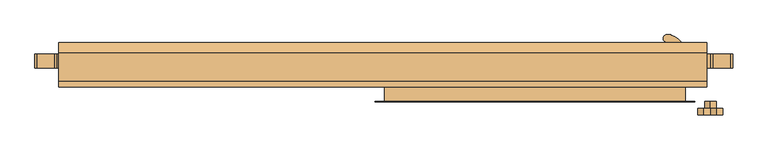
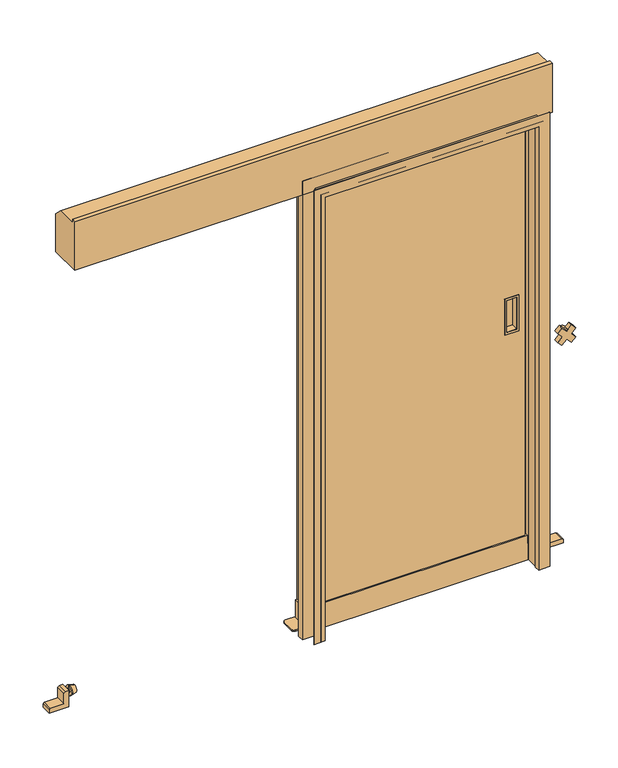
"""IFC4 building model written with IfcOpenShell, lengths in millimetres: door geometry, 冷蔵_片引きスライドドア3方_手動 : W870xH1905xt55."""

import ifcopenshell
import ifcopenshell.guid

model = None  # the IFC model being written
_history = None  # IfcOwnerHistory: only IFC2X3 demands one
_inside = {}  # id of a spatial element -> (the spatial element, [elements in it])
_under = {}  # id of a project, library or spatial element -> (it, [spatial elements below it])
_declared = {}  # id of a project -> (the project, [libraries it declares])
_typed = {}  # id of a type object -> (the type object, [elements of that type])
_made_of = {}  # id of a material, layer set ... -> (it, [elements and type objects made of it])


def new_model(schema):
    """Start an empty IFC model of exactly this schema.

    Asked for "IFC4X3", IfcOpenShell would pick the latest addendum, in which some entities
    have other attributes; the version numbers below select the first issue.
    IFC2X3 requires an IfcOwnerHistory on every rooted entity: one is made here for all.
    """
    global model, _history
    if schema == "IFC4X3":
        model = ifcopenshell.file(schema_version=(4, 3, 0, 0))
    else:
        model = ifcopenshell.file(schema=schema)
    _inside.clear()
    _under.clear()
    _declared.clear()
    _typed.clear()
    _made_of.clear()
    _history = None
    if model.schema == "IFC2X3":
        org = make("IfcOrganization", Name="unknown")
        user = make(
            "IfcPersonAndOrganization",
            ThePerson=make("IfcPerson", FamilyName="unknown"),
            TheOrganization=org,
        )
        app = make(
            "IfcApplication",
            ApplicationDeveloper=org,
            Version="unknown",
            ApplicationFullName="unknown",
            ApplicationIdentifier="unknown",
        )
        _history = make(
            "IfcOwnerHistory",
            OwningUser=user,
            OwningApplication=app,
            ChangeAction="ADDED",
            CreationDate=0,
        )
    return model


def make(cls, **values):
    """One entity of the class cls with the attributes given. An attribute that is None is left unset."""
    return model.create_entity(
        cls, **{name: value for name, value in values.items() if value is not None}
    )


def rooted(cls, **values):
    """An entity with a GlobalId (a new one), such as an element, a storey or a relation."""
    return make(cls, GlobalId=ifcopenshell.guid.new(), OwnerHistory=_history, **values)


def si_unit(unit_type, name, prefix=None):
    """IfcSIUnit, for example si_unit("LENGTHUNIT", "METRE", prefix="MILLI")."""
    return make("IfcSIUnit", UnitType=unit_type, Prefix=prefix, Name=name)


def assignment(units):
    """IfcUnitAssignment: the units of a project."""
    return None if units is None else make("IfcUnitAssignment", Units=units)


def point(xyz):
    """IfcCartesianPoint."""
    return None if xyz is None else make("IfcCartesianPoint", Coordinates=xyz)


def direction(xyz):
    """IfcDirection."""
    return None if xyz is None else make("IfcDirection", DirectionRatios=xyz)


def frame(location, z_axis=None, x_axis=None):
    """IfcAxis2Placement3D, a coordinate frame: its origin and axes. An axis left out is left unset."""
    return make(
        "IfcAxis2Placement3D",
        Location=point(location),
        Axis=direction(z_axis),
        RefDirection=direction(x_axis),
    )


def frame_2d(location, x_axis=None):
    """IfcAxis2Placement2D, a coordinate frame in the plane: its origin and x axis."""
    return make(
        "IfcAxis2Placement2D", Location=point(location), RefDirection=direction(x_axis)
    )


def origin():
    """The frame at (0, 0, 0) with its axes left unset."""
    return frame((0.0, 0.0, 0.0))


def origin_with_axes():
    """The frame at (0, 0, 0) with the z axis (0, 0, 1) and the x axis (1, 0, 0) written out."""
    return frame((0.0, 0.0, 0.0), z_axis=(0.0, 0.0, 1.0), x_axis=(1.0, 0.0, 0.0))


def place(relative_to, where):
    """IfcLocalPlacement: puts the frame where relative to a parent placement (None: the world)."""
    return make(
        "IfcLocalPlacement", PlacementRelTo=relative_to, RelativePlacement=where
    )


def context(
    kind, dimensions, precision=None, world=None, true_north=None, identifier=None
):
    """IfcGeometricRepresentationContext, for example the 3D "Model" context."""
    return make(
        "IfcGeometricRepresentationContext",
        ContextIdentifier=identifier,
        ContextType=kind,
        CoordinateSpaceDimension=dimensions,
        Precision=precision,
        WorldCoordinateSystem=world,
        TrueNorth=true_north,
    )


def project(units=None, contexts=None):
    """IfcProject with its units and contexts."""
    return rooted(
        "IfcProject",
        Name="project",
        RepresentationContexts=contexts,
        UnitsInContext=assignment(units),
    )


def spatial(cls, under=None, at=None, **own):
    """A site, building, storey or space (cls), placed at a placement, below another one or the project."""
    s = rooted(cls, ObjectPlacement=at, **own)
    if under is not None:
        _under.setdefault(under.id(), (under, []))[1].append(s)
    return s


def polyline(points):
    """IfcPolyline through the points."""
    return make("IfcPolyline", Points=[point(p) for p in points])


def circle_curve(where, radius):
    """IfcCircle in the frame where."""
    return make("IfcCircle", Position=where, Radius=radius)


def trimmed(basis, trim1, trim2, sense, master):
    """IfcTrimmedCurve: the piece of a basis curve between two trims."""
    return make(
        "IfcTrimmedCurve",
        BasisCurve=basis,
        Trim1=trim1,
        Trim2=trim2,
        SenseAgreement=sense,
        MasterRepresentation=master,
    )


def segment(curve, same_sense, transition):
    """IfcCompositeCurveSegment."""
    return make(
        "IfcCompositeCurveSegment",
        Transition=transition,
        SameSense=same_sense,
        ParentCurve=curve,
    )


def composite_curve(segments, self_intersect=None):
    """IfcCompositeCurve: segments joined end to end."""
    return make("IfcCompositeCurve", Segments=segments, SelfIntersect=self_intersect)


def outline(outer, holes=None, kind="AREA"):
    """IfcArbitraryClosedProfileDef: a profile drawn as a closed curve; with holes, ...WithVoids."""
    if holes is None:
        return make("IfcArbitraryClosedProfileDef", ProfileType=kind, OuterCurve=outer)
    return make(
        "IfcArbitraryProfileDefWithVoids",
        ProfileType=kind,
        OuterCurve=outer,
        InnerCurves=holes,
    )


def extrude(swept, where, along, depth):
    """IfcExtrudedAreaSolid: the profile swept, set in the frame where, extruded along a direction by depth."""
    return make(
        "IfcExtrudedAreaSolid",
        SweptArea=swept,
        Position=where,
        ExtrudedDirection=direction(along),
        Depth=depth,
    )


def faces_of(points, faces, orient=None, outer=None):
    """IfcFace entities. A face is a list of loops; a loop is a list of indices into points, from 0.

    orient and outer hold one flag for each loop. By default every Orientation is true, the
    first loop of a face is its IfcFaceOuterBound and the others are IfcFaceBound.
    """
    made = []
    for i, loops in enumerate(faces):
        bounds = []
        for j, loop in enumerate(loops):
            is_outer = j == 0 if outer is None else outer[i][j]
            bounds.append(
                make(
                    "IfcFaceOuterBound" if is_outer else "IfcFaceBound",
                    Bound=make("IfcPolyLoop", Polygon=[points[k] for k in loop]),
                    Orientation=True if orient is None else orient[i][j],
                )
            )
        made.append(make("IfcFace", Bounds=bounds))
    return made


def faceted_brep(points, faces, orient=None, outer=None, voids=None):
    """IfcFacetedBrep: a solid bounded by flat faces; with voids (closed shells), ...WithVoids."""
    shared = [point(p) for p in points]
    hull = make("IfcClosedShell", CfsFaces=faces_of(shared, faces, orient, outer))
    if voids is None:
        return make("IfcFacetedBrep", Outer=hull)
    return make(
        "IfcFacetedBrepWithVoids",
        Outer=hull,
        Voids=[
            make(cls, CfsFaces=faces_of(shared, fs, o, b)) for cls, fs, o, b in voids
        ],
    )


def shape(context_of_items, identifier, shape_type, items):
    """IfcShapeRepresentation: the items that make up one representation, for example the "Body"."""
    return make(
        "IfcShapeRepresentation",
        ContextOfItems=context_of_items,
        RepresentationIdentifier=identifier,
        RepresentationType=shape_type,
        Items=items,
    )


def source(mapping_origin, context_of_items, identifier, shape_type, items):
    """IfcRepresentationMap: a shape defined once, which mapped items show again and again."""
    return make(
        "IfcRepresentationMap",
        MappingOrigin=mapping_origin,
        MappedRepresentation=shape(context_of_items, identifier, shape_type, items),
    )


def transform(
    local_origin,
    x_axis=None,
    y_axis=None,
    z_axis=None,
    scale=None,
    scale2=None,
    scale3=None,
    uniform=True,
):
    """IfcCartesianTransformationOperator3D, or its non-uniform kind. x_axis, y_axis, z_axis: its Axis1, 2, 3."""
    if uniform:
        return make(
            "IfcCartesianTransformationOperator3D",
            Axis1=direction(x_axis),
            Axis2=direction(y_axis),
            LocalOrigin=point(local_origin),
            Scale=scale,
            Axis3=direction(z_axis),
        )
    return make(
        "IfcCartesianTransformationOperator3DnonUniform",
        Axis1=direction(x_axis),
        Axis2=direction(y_axis),
        LocalOrigin=point(local_origin),
        Scale=scale,
        Axis3=direction(z_axis),
        Scale2=scale2,
        Scale3=scale3,
    )


def mapped(mapping_source, mapping_target):
    """IfcMappedItem: shows the shape of a source again, moved by a transform."""
    return make(
        "IfcMappedItem", MappingSource=mapping_source, MappingTarget=mapping_target
    )


def made_of(thing, what):
    """Note that an element or type object is made of a material, layer set ...; save() writes the relation."""
    if what is not None:
        _made_of.setdefault(what.id(), (what, []))[1].append(thing)
    return thing


def element(
    cls,
    number,
    at=None,
    inside=None,
    cuts=None,
    type_object=None,
    material=None,
    context=None,
    identifier="Body",
    shape_type=None,
    held_by="IfcProductDefinitionShape",
    body=None,
    shapes=None,
    **own,
):
    """One element of the class cls, such as IfcWall. Its Tag is "e" and its number.

    at: its placement. inside: the storey or other place that contains it. cuts: it is an
    opening in that element (IfcRelVoidsElement). A single representation is given by context,
    identifier, shape_type and body (its items); several are given by shapes. held_by: the class
    of the entity that holds the representations. save() writes the other relations.
    """
    e = rooted(cls, Tag="e%d" % number, ObjectPlacement=at, **own)
    if body is not None:
        shapes = [shape(context, identifier, shape_type, body)]
    if shapes is not None:
        e.Representation = make(held_by, Representations=shapes)
    if inside is not None:
        _inside.setdefault(inside.id(), (inside, []))[1].append(e)
    if cuts is not None:
        rooted(
            "IfcRelVoidsElement", RelatingBuildingElement=cuts, RelatedOpeningElement=e
        )
    if type_object is not None:
        _typed.setdefault(type_object.id(), (type_object, []))[1].append(e)
    return made_of(e, material)


def aggregate(whole, parts):
    """IfcRelAggregates: a whole, such as a stair, and the parts it consists of."""
    return rooted("IfcRelAggregates", RelatingObject=whole, RelatedObjects=parts)


def save(model, path):
    """Write the relations noted so far, then the file.

    IfcRelAggregates (storeys below a building ...), IfcRelContainedInSpatialStructure (elements
    in a storey), IfcRelDefinesByType, IfcRelAssociatesMaterial and IfcRelDeclares: one each for
    every whole, place, type object, material and project.
    """
    for whole, parts in _under.values():
        aggregate(whole, parts)
    for where, things in _inside.values():
        rooted(
            "IfcRelContainedInSpatialStructure",
            RelatedElements=things,
            RelatingStructure=where,
        )
    for kind, things in _typed.values():
        rooted("IfcRelDefinesByType", RelatedObjects=things, RelatingType=kind)
    for what, things in _made_of.values():
        rooted("IfcRelAssociatesMaterial", RelatedObjects=things, RelatingMaterial=what)
    for by, libraries in _declared.values():
        rooted("IfcRelDeclares", RelatingContext=by, RelatedDefinitions=libraries)
    model.write(path)


def plane_surface(at):
    """IfcPlane: the flat surface through the origin of the frame at, square to its z axis."""
    return make("IfcPlane", Position=at)


def cylinder_surface(at, radius):
    """IfcCylindricalSurface: all points at the distance radius from the z axis of the frame at."""
    return make("IfcCylindricalSurface", Position=at, Radius=radius)


def revolved_surface(curve, axis_point, axis_direction):
    """IfcSurfaceOfRevolution: the curve turned about the line through axis_point along axis_direction."""
    return make(
        "IfcSurfaceOfRevolution",
        SweptCurve=make("IfcArbitraryOpenProfileDef", ProfileType="CURVE", Curve=curve),
        AxisPosition=make("IfcAxis1Placement", Location=point(axis_point), Axis=direction(axis_direction)),
    )


def advanced_brep(points, edges, surfaces, faces):
    """IfcAdvancedBrep: a solid bounded by faces that lie on surfaces and meet in shared edges.

    An edge is (start, end): straight between two places in points (the first is 0);
    or (start, end, curve); or (start, end, curve, False) where it runs against its curve.
    A face is (place in surfaces, loops), or (place, loops, False) where it looks against
    its surface's normal. A loop lists edges by number (the first is 1), with a minus sign
    where the edge is run from its end to its start. The first loop is the outer one.
    """
    corners = [point(p) for p in points]
    vertices = [make("IfcVertexPoint", VertexGeometry=c) for c in corners]
    made = []
    for start, end, *more in edges:
        made.append(
            make(
                "IfcEdgeCurve",
                EdgeStart=vertices[start],
                EdgeEnd=vertices[end],
                EdgeGeometry=more[0] if more else make("IfcPolyline", Points=[corners[start], corners[end]]),
                SameSense=more[1] if len(more) > 1 else True,
            )
        )
    hull = []
    for where, loops, *sense in faces:
        bounds = []
        for j, loop in enumerate(loops):
            ring = [make("IfcOrientedEdge", EdgeElement=made[abs(k) - 1], Orientation=k > 0) for k in loop]
            bounds.append(
                make(
                    "IfcFaceOuterBound" if j == 0 else "IfcFaceBound",
                    Bound=make("IfcEdgeLoop", EdgeList=ring),
                    Orientation=True,
                )
            )
        hull.append(make("IfcAdvancedFace", Bounds=bounds, FaceSurface=surfaces[where], SameSense=sense[0] if sense else True))
    return make("IfcAdvancedBrep", Outer=make("IfcClosedShell", CfsFaces=hull))


def door_3a216a61(model_context):
    return source(origin(), model_context, "Body", "SolidModel", [
        faceted_brep([(470.0, 112.5, 1940.0), (-470.0, 112.5, 1940.0), (-470.0, 68.5, 1940.0), (470.0, 68.5, 1940.0), (470.0, 112.5, 70.0), (470.0, 68.5, 70.0), (425.0, 68.5, 70.0), (425.0, 57.5, 70.0), (-425.0, 57.5, 70.0), (-425.0, 68.5, 70.0), (-470.0, 68.5, 70.0), (-470.0, 112.5, 70.0), (-425.0, 68.5, 1895.0), (425.0, 68.5, 1895.0), (-425.0, 57.5, 1895.0), (425.0, 57.5, 1895.0), (350.500035, 57.5, 1138.0), (390.500035, 57.5, 1138.0), (390.500035, 57.5, 1002.0), (350.500035, 57.5, 1002.0), (350.500035, 85.5, 1138.0), (390.500035, 85.5, 1138.0), (350.500035, 85.5, 1002.0), (390.500035, 85.5, 1002.0)], [[[0, 1, 2, 3]], [[4, 5, 6, 7, 8, 9, 10, 11]], [[1, 0, 4, 11]], [[2, 1, 11, 10]], [[3, 2, 10, 9, 12, 13, 6, 5]], [[0, 3, 5, 4]], [[12, 14, 15, 13]], [[14, 12, 9, 8]], [[15, 14, 8, 7], [16, 17, 18, 19]], [[13, 15, 7, 6]], [[20, 21, 17, 16]], [[20, 16, 19, 22]], [[22, 19, 18, 23]], [[17, 21, 23, 18]], [[21, 20, 22, 23]]]),
        extrude(outline(polyline([(1147.0, 399.500035), (1147.0, 341.500035), (993.0, 341.500035), (993.0, 399.500035), (1147.0, 399.500035)]), holes=[polyline([(1002.0, 390.500035), (1002.0, 350.500035), (1138.0, 350.500035), (1138.0, 390.500035), (1002.0, 390.500035)])]), frame((0.0, 55.499995, 0.0), z_axis=(0.0, 1.0, 0.0), x_axis=(0.0, 0.0, 1.0)), (0.0, 0.0, 1.0), 2.000005),
        extrude(outline(polyline([(73.49997, 35.00001), (61.49997, 47.00001), (61.49997, 110.00001), (111.49997, 110.00001), (111.49997, 35.00001), (73.49997, 35.00001)])), frame((-476.0, 0.0, 0.0), z_axis=(1.0, 0.0, 0.0), x_axis=(0.0, 1.0, 0.0)), (0.0, 0.0, 1.0), 6.0),
        extrude(outline(polyline([(73.49997, 35.00001), (61.49997, 47.00001), (61.49997, 110.00001), (111.49997, 110.00001), (111.49997, 35.00001), (73.49997, 35.00001)])), frame((470.0, 0.0, 0.0), z_axis=(1.0, 0.0, 0.0), x_axis=(0.0, 1.0, 0.0)), (0.0, 0.0, 1.0), 6.0),
        extrude(outline(polyline([(470.0, 112.5), (470.0, 77.49997), (-470.0, 77.49997), (-470.0, 112.5), (470.0, 112.5)])), frame((0.0, 0.0, 35.00001), z_axis=(0.0, 0.0, 1.0), x_axis=(1.0, 0.0, 0.0)), (0.0, 0.0, 1.0), 34.99999),
        extrude(outline(polyline([(-432.0, 68.5), (432.0, 68.5), (432.0, 51.499345), (-432.0, 51.499345), (-432.0, 68.5)])), frame((0.0, 0.0, -0.004205), z_axis=(0.0, 0.0, 1.0), x_axis=(1.0, 0.0, 0.0)), (0.0, 0.0, 1.0), 105.0),
        extrude(outline(polyline([(460.4985861, 48.9116213), (432.5014439, 48.9116213), (432.5014439, 68.5), (460.4985861, 68.5), (460.4985861, 48.9116213)])), frame((0.0, 0.0, 70.0), z_axis=(0.0, 0.0, 1.0), x_axis=(1.0, 0.0, 0.0)), (0.0, 0.0, 1.0), 1825.0),
        extrude(outline(polyline([(-460.4985861, 48.9116213), (-460.4985861, 68.5), (-432.5014439, 68.5), (-432.5014439, 48.9116213), (-460.4985861, 48.9116213)])), frame((0.0, 0.0, 70.0), z_axis=(0.0, 0.0, 1.0), x_axis=(1.0, 0.0, 0.0)), (0.0, 0.0, 1.0), 1825.0),
        extrude(outline(polyline([(460.4985861, 68.5), (460.4985861, 48.9116213), (-460.4985861, 48.9116213), (-460.4985861, 68.5), (460.4985861, 68.5)])), frame((0.0, 0.0, 1902.4986091), z_axis=(0.0, 0.0, 1.0), x_axis=(1.0, 0.0, 0.0)), (0.0, 0.0, 1.0), 28.0),
        extrude(outline(polyline([(1037.123106, 544.9454365), (1017.6776695, 525.5), (1037.123106, 506.0545635), (1019.4454365, 488.376894), (1000.0, 507.8223305), (980.5545635, 488.376894), (962.876894, 506.0545635), (982.3223305, 525.5), (962.876894, 544.9454365), (980.5545635, 562.623106), (1000.0, 543.1776695), (1019.4454365, 562.623106), (1037.123106, 544.9454365)])), frame((0.0, -62.0, 0.0), z_axis=(0.0, 1.0, 0.0), x_axis=(0.0, 0.0, 1.0)), (0.0, 0.0, 1.0), 20.0),
        extrude(outline(composite_curve([segment(trimmed(circle_curve(frame_2d((1000.0, 525.5)), 16.99999), [point((983.00001, 525.5))], [point((1016.99999, 525.5))], False, "CARTESIAN"), True, "CONTINUOUS"), segment(trimmed(circle_curve(frame_2d((1000.0, 525.5)), 16.99999), [point((1016.99999, 525.5))], [point((983.00001, 525.5))], False, "CARTESIAN"), True, "CONTINUOUS")], self_intersect=False)), frame((0.0, -42.0, 0.0), z_axis=(0.0, 1.0, 0.0), x_axis=(0.0, 0.0, 1.0)), (0.0, 0.0, 1.0), 20.0),
        advanced_brep(
        [(-1404.999995, 100.0, 32.99147), (-1404.999995, 100.0, 72.98458), (-1404.999995, 100.0, 60.988025), (-1404.999995, 100.0, 44.988025), (-1400.999995, 100.0, 32.99147), (-1400.999995, 100.0, 72.98458), (-1380.999995, 100.0, 37.9914727), (-1380.999995, 100.0, 67.9845773), (-1380.999995, 100.0, 52.988025), (-1416.99999, 100.0, 44.988025), (-1416.99999, 100.0, 60.988025), (-1416.99999, 100.0, 52.988025)],
        [
            (0, 1, circle_curve(frame((-1404.999995, 100.0, 52.988025), z_axis=(-1.0, 0.0, 0.0), x_axis=(0.0, 0.0, 1.0)), 19.996555)),
            (1, 2),
            (2, 3, circle_curve(frame((-1404.999995, 100.0, 52.988025), z_axis=(1.0, 0.0, 0.0), x_axis=(0.0, 0.0, 1.0)), 8.0)),
            (3, 0),
            (1, 0, circle_curve(frame((-1404.999995, 100.0, 52.988025), z_axis=(-1.0, 0.0, 0.0), x_axis=(0.0, 0.0, 1.0)), 19.996555)),
            (3, 2, circle_curve(frame((-1404.999995, 100.0, 52.988025), z_axis=(1.0, 0.0, 0.0), x_axis=(0.0, 0.0, 1.0)), 8.0)),
            (4, 5, circle_curve(frame((-1400.999995, 100.0, 52.988025), z_axis=(-1.0, 0.0, 0.0), x_axis=(0.0, 0.0, 1.0)), 19.996555)),
            (5, 1),
            (0, 4),
            (5, 4, circle_curve(frame((-1400.999995, 100.0, 52.988025), z_axis=(-1.0, 0.0, 0.0), x_axis=(0.0, 0.0, 1.0)), 19.996555)),
            (6, 7, circle_curve(frame((-1380.999995, 100.0, 52.988025), z_axis=(-1.0, 0.0, 0.0), x_axis=(0.0, 0.0, 1.0)), 14.9965523)),
            (7, 5),
            (4, 6),
            (7, 6, circle_curve(frame((-1380.999995, 100.0, 52.988025), z_axis=(-1.0, 0.0, 0.0), x_axis=(0.0, 0.0, 1.0)), 14.9965523)),
            (8, 7),
            (6, 8),
            (9, 10, circle_curve(frame((-1416.99999, 100.0, 52.988025), z_axis=(-1.0, 0.0, 0.0), x_axis=(0.0, 0.0, 1.0)), 8.0)),
            (10, 11),
            (11, 9),
            (10, 9, circle_curve(frame((-1416.99999, 100.0, 52.988025), z_axis=(-1.0, 0.0, 0.0), x_axis=(0.0, 0.0, 1.0)), 8.0)),
            (2, 10),
            (9, 3),
        ],
        [
            plane_surface(frame((-1404.999995, 100.0, 52.988025), z_axis=(-1.0, 0.0, 0.0), x_axis=(0.0, 0.0, 1.0))),
            cylinder_surface(frame((-1380.999995, 100.0, 52.988025), z_axis=(1.0, 0.0, 0.0), x_axis=(0.0, 0.0, 1.0)), 19.996555),
            revolved_surface(polyline([(-1400.999995, 100.0, 72.98458), (-1380.999995, 100.0, 67.9845773)]), (-1380.999995, 100.0, 52.988025), (1.0, 0.0, 0.0)),
            plane_surface(frame((-1380.999995, 100.0, 52.988025), z_axis=(1.0, 0.0, 0.0), x_axis=(0.0, 0.0, 1.0))),
            plane_surface(frame((-1416.99999, 100.0, 52.988025), z_axis=(-1.0, 0.0, 0.0), x_axis=(0.0, 0.0, 1.0))),
            cylinder_surface(frame((-1380.999995, 100.0, 52.988025), z_axis=(1.0, 0.0, 0.0), x_axis=(0.0, 0.0, 1.0)), 8.0),
        ],
        [
            (0, [[1, 2, 3, 4]]),
            (0, [[5, -4, 6, -2]]),
            (1, [[7, 8, -1, 9]]),
            (1, [[10, -9, -5, -8]]),
            (2, [[11, 12, -7, 13]]),
            (2, [[14, -13, -10, -12]]),
            (3, [[15, -11, 16]]),
            (3, [[-16, -14, -15]]),
            (4, [[17, 18, 19]]),
            (4, [[20, -19, -18]]),
            (5, [[-3, 21, -17, 22]]),
            (5, [[-6, -22, -20, -21]]),
        ],
    ),
        extrude(outline(polyline([(0.000626, -1416.99999), (69.99063, -1416.99999), (69.99771, -1431.99999), (64.99725, -1437.0), (19.99062, -1437.0), (19.99311, -1491.99999), (14.99265, -1497.0), (-0.00939, -1497.0), (0.000626, -1416.99999)])), frame((0.0, 78.99775, 0.0), z_axis=(0.0, 1.0, 0.0), x_axis=(0.0, 0.0, 1.0)), (0.0, 0.0, 1.0), 42.00225),
        advanced_brep(
        [(499.999995, 100.0, 32.99147), (499.999995, 100.0, 72.98458), (499.999995, 100.0, 60.988025), (499.999995, 100.0, 44.988025), (495.999995, 100.0, 32.99147), (495.999995, 100.0, 72.98458), (475.999995, 100.0, 37.9914727), (475.999995, 100.0, 67.9845773), (475.999995, 100.0, 52.988025), (511.99999, 100.0, 44.988025), (511.99999, 100.0, 60.988025), (511.99999, 100.0, 52.988025)],
        [
            (0, 1, circle_curve(frame((499.999995, 100.0, 52.988025), z_axis=(1.0, 0.0, 0.0), x_axis=(0.0, 0.0, 1.0)), 19.996555)),
            (1, 2),
            (2, 3, circle_curve(frame((499.999995, 100.0, 52.988025), z_axis=(-1.0, 0.0, 0.0), x_axis=(0.0, 0.0, 1.0)), 8.0)),
            (3, 0),
            (1, 0, circle_curve(frame((499.999995, 100.0, 52.988025), z_axis=(1.0, 0.0, 0.0), x_axis=(0.0, 0.0, 1.0)), 19.996555)),
            (3, 2, circle_curve(frame((499.999995, 100.0, 52.988025), z_axis=(-1.0, 0.0, 0.0), x_axis=(0.0, 0.0, 1.0)), 8.0)),
            (4, 5, circle_curve(frame((495.999995, 100.0, 52.988025), z_axis=(1.0, 0.0, 0.0), x_axis=(0.0, 0.0, 1.0)), 19.996555)),
            (5, 1),
            (0, 4),
            (5, 4, circle_curve(frame((495.999995, 100.0, 52.988025), z_axis=(1.0, 0.0, 0.0), x_axis=(0.0, 0.0, 1.0)), 19.996555)),
            (6, 7, circle_curve(frame((475.999995, 100.0, 52.988025), z_axis=(1.0, 0.0, 0.0), x_axis=(0.0, 0.0, 1.0)), 14.9965523)),
            (7, 5),
            (4, 6),
            (7, 6, circle_curve(frame((475.999995, 100.0, 52.988025), z_axis=(1.0, 0.0, 0.0), x_axis=(0.0, 0.0, 1.0)), 14.9965523)),
            (8, 7),
            (6, 8),
            (9, 10, circle_curve(frame((511.99999, 100.0, 52.988025), z_axis=(1.0, 0.0, 0.0), x_axis=(0.0, 0.0, 1.0)), 8.0)),
            (10, 11),
            (11, 9),
            (10, 9, circle_curve(frame((511.99999, 100.0, 52.988025), z_axis=(1.0, 0.0, 0.0), x_axis=(0.0, 0.0, 1.0)), 8.0)),
            (2, 10),
            (9, 3),
        ],
        [
            plane_surface(frame((499.999995, 100.0, 52.988025), z_axis=(1.0, 0.0, 0.0), x_axis=(0.0, 0.0, 1.0))),
            cylinder_surface(frame((475.999995, 100.0, 52.988025), z_axis=(-1.0, 0.0, 0.0), x_axis=(0.0, 0.0, 1.0)), 19.996555),
            revolved_surface(polyline([(495.999995, 100.0, 72.98458), (475.999995, 100.0, 67.9845773)]), (475.999995, 100.0, 52.988025), (-1.0, 0.0, 0.0)),
            plane_surface(frame((475.999995, 100.0, 52.988025), z_axis=(-1.0, 0.0, 0.0), x_axis=(0.0, 0.0, 1.0))),
            plane_surface(frame((511.99999, 100.0, 52.988025), z_axis=(1.0, 0.0, 0.0), x_axis=(0.0, 0.0, 1.0))),
            cylinder_surface(frame((475.999995, 100.0, 52.988025), z_axis=(-1.0, 0.0, 0.0), x_axis=(0.0, 0.0, 1.0)), 8.0),
        ],
        [
            (0, [[1, 2, 3, 4]]),
            (0, [[5, -4, 6, -2]]),
            (1, [[7, 8, -1, 9]]),
            (1, [[10, -9, -5, -8]]),
            (2, [[11, 12, -7, 13]]),
            (2, [[14, -13, -10, -12]]),
            (3, [[15, -11, 16]]),
            (3, [[-16, -14, -15]]),
            (4, [[17, 18, 19]]),
            (4, [[20, -19, -18]]),
            (5, [[-3, 21, -17, 22]]),
            (5, [[-6, -22, -20, -21]]),
        ],
    ),
        extrude(outline(polyline([(0.000626, 511.99999), (-0.00939, 592.0), (14.99265, 592.0), (19.99311, 586.99999), (19.99062, 532.0), (64.99725, 532.0), (69.99771, 526.99999), (69.99063, 511.99999), (0.000626, 511.99999)])), frame((0.0, 79.0, 0.0), z_axis=(0.0, 1.0, 0.0), x_axis=(0.0, 0.0, 1.0)), (0.0, 0.0, 1.0), 42.00225),
        extrude(outline(composite_curve([segment(polyline([(-433.999285, 141.49999), (-433.999285, 90.49999)]), True, "CONTINUOUS"), segment(trimmed(circle_curve(frame_2d((-443.999285, 90.49999)), 10.0), [point((-433.999285, 90.49999))], [point((-443.999285, 80.49999))], False, "CARTESIAN"), True, "CONTINUOUS"), segment(polyline([(-443.999285, 80.49999), (-495.00008, 80.49999)]), True, "CONTINUOUS"), segment(trimmed(circle_curve(frame_2d((-495.00008, 90.49999)), 10.0), [point((-495.00008, 80.49999))], [point((-505.00008, 90.49999))], False, "CARTESIAN"), True, "CONTINUOUS"), segment(polyline([(-505.00008, 90.49999), (-505.00008, 141.49999)]), True, "CONTINUOUS"), segment(trimmed(circle_curve(frame_2d((-495.00008, 141.49999)), 10.0), [point((-505.00008, 141.49999))], [point((-495.00008, 151.49999))], False, "CARTESIAN"), True, "CONTINUOUS"), segment(polyline([(-495.00008, 151.49999), (-443.999285, 151.49999)]), True, "CONTINUOUS"), segment(trimmed(circle_curve(frame_2d((-443.999285, 141.49999)), 10.0), [point((-443.999285, 151.49999))], [point((-433.999285, 141.49999))], False, "CARTESIAN"), True, "CONTINUOUS")], self_intersect=False)), origin_with_axes(), (0.0, 0.0, 1.0), 6.0),
        extrude(outline(composite_curve([segment(polyline([(504.50008, 141.49999), (504.50008, 90.49999)]), True, "CONTINUOUS"), segment(trimmed(circle_curve(frame_2d((494.50008, 90.49999)), 10.0), [point((504.50008, 90.49999))], [point((494.50008, 80.49999))], False, "CARTESIAN"), True, "CONTINUOUS"), segment(polyline([(494.50008, 80.49999), (443.499285, 80.49999)]), True, "CONTINUOUS"), segment(trimmed(circle_curve(frame_2d((443.499285, 90.49999)), 10.0), [point((443.499285, 80.49999))], [point((433.499285, 90.49999))], False, "CARTESIAN"), True, "CONTINUOUS"), segment(polyline([(433.499285, 90.49999), (433.499285, 141.49999)]), True, "CONTINUOUS"), segment(trimmed(circle_curve(frame_2d((443.499285, 141.49999)), 10.0), [point((433.499285, 141.49999))], [point((443.499285, 151.49999))], False, "CARTESIAN"), True, "CONTINUOUS"), segment(polyline([(443.499285, 151.49999), (494.50008, 151.49999)]), True, "CONTINUOUS"), segment(trimmed(circle_curve(frame_2d((494.50008, 141.49999)), 10.0), [point((494.50008, 151.49999))], [point((504.50008, 141.49999))], False, "CARTESIAN"), True, "CONTINUOUS")], self_intersect=False)), origin_with_axes(), (0.0, 0.0, 1.0), 5.99685),
        extrude(outline(polyline([(155.499875, 2072.61005), (155.499875, 1910.000385), (22.0, 1910.000385), (22.0, 2120.0), (38.499875, 2120.0), (38.499875, 2104.99995), (123.109975, 2104.99995), (155.499875, 2072.61005)])), frame((-1425.0, 0.0, 0.0), z_axis=(1.0, 0.0, 0.0), x_axis=(0.0, 1.0, 0.0)), (0.0, 0.0, 1.0), 1940.0),
        faceted_brep([(-435.0, -22.0, 0.0), (-451.00103, -22.0, 0.0), (-451.00103, 22.0, 0.0), (-500.0, 22.0, 0.0), (-500.0, 49.0, 0.0), (-435.0, 49.0, 0.0), (-435.0, -22.0, 1905.0), (435.0, -22.0, 1905.0), (435.0, -22.0, 0.0), (451.00103, -22.0, 0.0), (451.00103, -22.0, 1921.00103), (-451.00103, -22.0, 1921.00103), (-451.00103, 22.0, 1921.00103), (451.00103, 22.0, 1921.00103), (451.00103, 22.0, 0.0), (500.0, 22.0, 0.0), (500.0, 22.0, 1970.0), (-500.0, 22.0, 1970.0), (-500.0, 49.0, 1970.0), (500.0, 49.0, 1970.0), (500.0, 49.0, 0.0), (435.0, 49.0, 0.0), (435.0, 49.0, 1905.0), (-435.0, 49.0, 1905.0)], [[[0, 1, 2, 3, 4, 5]], [[1, 0, 6, 7, 8, 9, 10, 11]], [[2, 1, 11, 12]], [[3, 2, 12, 13, 14, 15, 16, 17]], [[4, 3, 17, 18]], [[5, 4, 18, 19, 20, 21, 22, 23]], [[0, 5, 23, 6]], [[7, 22, 21, 8]], [[8, 21, 20, 15, 14, 9]], [[13, 10, 9, 14]], [[19, 16, 15, 20]], [[12, 11, 10, 13]], [[18, 17, 16, 19]], [[6, 23, 22, 7]]]),
        faceted_brep([(-479.0, -23.2, 0.0), (-479.0, -22.0, 0.0), (-435.0, -22.0, 0.0), (-435.0, -1.2, 0.0), (-433.8, -1.2, 0.0), (-433.8, -23.2, 0.0), (-479.0, -23.2, 1949.0), (-479.0, -22.0, 1949.0), (479.0, -22.0, 1949.0), (479.0, -22.0, 0.0), (435.0, -22.0, 0.0), (435.0, -22.0, 1905.0), (-435.0, -22.0, 1905.0), (-435.0, -1.2, 1905.0), (435.0, -1.2, 1905.0), (435.0, -1.2, 0.0), (433.8, -1.2, 0.0), (433.8, -1.2, 1903.8), (-433.8, -1.2, 1903.8), (-433.8, -23.2, 1903.8), (433.8, -23.2, 1903.8), (433.8, -23.2, 0.0), (479.0, -23.2, 0.0), (479.0, -23.2, 1949.0)], [[[0, 1, 2, 3, 4, 5]], [[1, 0, 6, 7]], [[2, 1, 7, 8, 9, 10, 11, 12]], [[3, 2, 12, 13]], [[4, 3, 13, 14, 15, 16, 17, 18]], [[5, 4, 18, 19]], [[0, 5, 19, 20, 21, 22, 23, 6]], [[8, 23, 22, 9]], [[22, 21, 16, 15, 10, 9]], [[14, 11, 10, 15]], [[20, 17, 16, 21]], [[7, 6, 23, 8]], [[13, 12, 11, 14]], [[19, 18, 17, 20]]]),
        advanced_brep(
        [(408.6234406, 177.3571279, 850.0), (408.6234402, 157.6428419, 850.0), (404.50281, 156.499985, 850.0), (393.89726, 156.499985, 850.0), (389.7766295, 157.6428424, 850.0), (389.7766298, 177.3571281, 850.0), (393.89726, 178.499985, 850.0), (404.50281, 178.499985, 850.0), (408.6234406, 177.3571279, 1350.0), (408.6234402, 157.6428419, 1350.0), (404.50281, 156.499985, 1350.0), (393.89726, 156.499985, 1350.0), (389.7766295, 157.6428424, 1350.0), (389.7766298, 177.3571281, 1350.0), (393.89726, 178.499985, 1350.0), (404.50281, 178.499985, 1350.0)],
        [
            (0, 1, circle_curve(frame((402.700035, 167.499985, 850.0), z_axis=(0.0, 0.0, -1.0), x_axis=(0.0, -1.0, 0.0)), 11.5)),
            (1, 2, circle_curve(frame((404.50281, 164.499985, 850.0), z_axis=(0.0, 0.0, -1.0), x_axis=(0.0, -1.0, 0.0)), 8.0)),
            (2, 3),
            (3, 4, circle_curve(frame((393.89726, 164.499985, 850.0), z_axis=(0.0, 0.0, -1.0), x_axis=(0.0, -1.0, 0.0)), 8.0)),
            (4, 5, circle_curve(frame((395.700035, 167.499985, 850.0), z_axis=(0.0, 0.0, -1.0), x_axis=(0.0, -1.0, 0.0)), 11.5)),
            (5, 6, circle_curve(frame((393.89726, 170.499985, 850.0), z_axis=(0.0, 0.0, -1.0), x_axis=(0.0, -1.0, 0.0)), 8.0)),
            (6, 7),
            (7, 0, circle_curve(frame((404.50281, 170.499985, 850.0), z_axis=(0.0, 0.0, -1.0), x_axis=(0.0, -1.0, 0.0)), 8.0)),
            (8, 9, circle_curve(frame((402.700035, 167.499985, 1350.0), z_axis=(0.0, 0.0, -1.0), x_axis=(0.0, -1.0, 0.0)), 11.5)),
            (9, 1),
            (0, 8),
            (9, 10, circle_curve(frame((404.50281, 164.499985, 1350.0), z_axis=(0.0, 0.0, -1.0), x_axis=(0.0, -1.0, 0.0)), 8.0)),
            (10, 2),
            (10, 11),
            (11, 3),
            (11, 12, circle_curve(frame((393.89726, 164.499985, 1350.0), z_axis=(0.0, 0.0, -1.0), x_axis=(0.0, -1.0, 0.0)), 8.0)),
            (12, 4),
            (12, 13, circle_curve(frame((395.700035, 167.499985, 1350.0), z_axis=(0.0, 0.0, -1.0), x_axis=(0.0, -1.0, 0.0)), 11.5)),
            (13, 5),
            (13, 14, circle_curve(frame((393.89726, 170.499985, 1350.0), z_axis=(0.0, 0.0, -1.0), x_axis=(0.0, -1.0, 0.0)), 8.0)),
            (14, 6),
            (14, 15),
            (15, 7),
            (15, 8, circle_curve(frame((404.50281, 170.499985, 1350.0), z_axis=(0.0, 0.0, -1.0), x_axis=(0.0, -1.0, 0.0)), 8.0)),
        ],
        [
            plane_surface(frame((404.50281, 162.499985, 850.0), z_axis=(0.0, 0.0, -1.0), x_axis=(-1.0, 0.0, 0.0))),
            cylinder_surface(frame((402.700035, 167.499985, 850.0), z_axis=(0.0, 0.0, 1.0), x_axis=(0.0, -1.0, 0.0)), 11.5),
            cylinder_surface(frame((404.50281, 164.499985, 850.0), z_axis=(0.0, 0.0, 1.0), x_axis=(0.0, -1.0, 0.0)), 8.0),
            plane_surface(frame((393.89726, 156.499985, 1350.0), z_axis=(0.0, -1.0, 0.0), x_axis=(0.0, 0.0, -1.0))),
            cylinder_surface(frame((393.89726, 164.499985, 850.0), z_axis=(0.0, 0.0, 1.0), x_axis=(0.0, -1.0, 0.0)), 8.0),
            cylinder_surface(frame((395.700035, 167.499985, 850.0), z_axis=(0.0, 0.0, 1.0), x_axis=(0.0, -1.0, 0.0)), 11.5),
            cylinder_surface(frame((393.89726, 170.499985, 850.0), z_axis=(0.0, 0.0, 1.0), x_axis=(0.0, -1.0, 0.0)), 8.0),
            plane_surface(frame((404.50281, 178.499985, 1350.0), z_axis=(0.0, 1.0, 0.0), x_axis=(0.0, 0.0, -1.0))),
            cylinder_surface(frame((404.50281, 170.499985, 850.0), z_axis=(0.0, 0.0, 1.0), x_axis=(0.0, -1.0, 0.0)), 8.0),
            plane_surface(frame((404.50281, 162.499985, 1350.0), z_axis=(0.0, 0.0, 1.0), x_axis=(1.0, 0.0, 0.0))),
        ],
        [
            (0, [[1, 2, 3, 4, 5, 6, 7, 8]]),
            (1, [[9, 10, -1, 11]]),
            (2, [[12, 13, -2, -10]]),
            (3, [[14, 15, -3, -13]]),
            (4, [[16, 17, -4, -15]]),
            (5, [[18, 19, -5, -17]]),
            (6, [[20, 21, -6, -19]]),
            (7, [[22, 23, -7, -21]]),
            (8, [[24, -11, -8, -23]]),
            (9, [[-24, -22, -20, -18, -16, -14, -12, -9]]),
        ],
    ),
        advanced_brep(
        [(393.89726, 178.499985, 830.0), (405.9684363, 178.499985, 830.0), (406.9851731, 178.322439, 830.0), (450.0081033, 133.5570327, 830.0), (451.4023369, 124.5176673, 830.0), (451.4023369, 112.5, 830.0), (408.600035, 112.5, 830.0), (408.600035, 132.0779954, 830.0), (398.0156732, 156.499985, 830.0), (393.89726, 156.499985, 830.0), (389.7766295, 157.6428424, 830.0), (389.7766298, 177.3571281, 830.0), (393.89726, 178.499985, 850.0), (389.77663, 177.3571279, 850.0), (389.7766294, 157.6428421, 850.0), (393.89726, 156.499985, 850.0), (398.0156732, 156.499985, 850.0), (408.600035, 132.0779954, 850.0), (408.600035, 112.5, 850.0), (451.4023369, 112.5, 850.0), (451.4023369, 124.5176673, 850.0), (450.0081033, 133.5570327, 850.0), (406.9851731, 178.322439, 850.0), (405.9684363, 178.499985, 850.0)],
        [
            (0, 1),
            (1, 2, circle_curve(frame((405.9684363, 175.499985, 830.0), z_axis=(0.0, 0.0, -1.0), x_axis=(0.0, -1.0, 0.0)), 3.0)),
            (2, 3, circle_curve(frame((383.261315, 112.46518, 830.0), z_axis=(0.0, 0.0, -1.0), x_axis=(0.0, -1.0, 0.0)), 70.0)),
            (3, 4, circle_curve(frame((421.4023369, 124.5176673, 830.0), z_axis=(0.0, 0.0, -1.0), x_axis=(0.0, -1.0, 0.0)), 30.0)),
            (4, 5),
            (5, 6),
            (6, 7),
            (7, 8, circle_curve(frame((375.1326278, 132.0779954, 830.0), z_axis=(0.0, 0.0, 1.0), x_axis=(0.0, -1.0, 0.0)), 33.4674072)),
            (8, 9),
            (9, 10, circle_curve(frame((393.89726, 164.499985, 830.0), z_axis=(0.0, 0.0, -1.0), x_axis=(0.0, -1.0, 0.0)), 8.0)),
            (10, 11, circle_curve(frame((395.700035, 167.499985, 830.0), z_axis=(0.0, 0.0, -1.0), x_axis=(0.0, -1.0, 0.0)), 11.5)),
            (11, 0, circle_curve(frame((393.89726, 170.499985, 830.0), z_axis=(0.0, 0.0, -1.0), x_axis=(0.0, -1.0, 0.0)), 8.0)),
            (12, 13, circle_curve(frame((393.89726, 170.499985, 850.0), z_axis=(0.0, 0.0, 1.0), x_axis=(0.0, -1.0, 0.0)), 8.0)),
            (13, 14, circle_curve(frame((395.700035, 167.499985, 850.0), z_axis=(0.0, 0.0, 1.0), x_axis=(0.0, -1.0, 0.0)), 11.5)),
            (14, 15, circle_curve(frame((393.89726, 164.499985, 850.0), z_axis=(0.0, 0.0, 1.0), x_axis=(0.0, -1.0, 0.0)), 8.0)),
            (15, 16),
            (16, 17, circle_curve(frame((375.1326278, 132.0779954, 850.0), z_axis=(0.0, 0.0, -1.0), x_axis=(0.0, -1.0, 0.0)), 33.4674072)),
            (17, 18),
            (18, 19),
            (19, 20),
            (20, 21, circle_curve(frame((421.4023369, 124.5176673, 850.0), z_axis=(0.0, 0.0, 1.0), x_axis=(0.0, -1.0, 0.0)), 30.0)),
            (21, 22, circle_curve(frame((383.261315, 112.46518, 850.0), z_axis=(0.0, 0.0, 1.0), x_axis=(0.0, -1.0, 0.0)), 70.0)),
            (22, 23, circle_curve(frame((405.9684363, 175.499985, 850.0), z_axis=(0.0, 0.0, 1.0), x_axis=(0.0, -1.0, 0.0)), 3.0)),
            (23, 12),
            (23, 1),
            (0, 12),
            (11, 13),
            (10, 14),
            (9, 15),
            (8, 16),
            (17, 7),
            (6, 18),
            (5, 19),
            (4, 20),
            (3, 21),
            (2, 22),
        ],
        [
            plane_surface(frame((393.89726, 162.499985, 830.0), z_axis=(0.0, 0.0, -1.0), x_axis=(-1.0, 0.0, 0.0))),
            plane_surface(frame((393.89726, 162.499985, 850.0), z_axis=(0.0, 0.0, 1.0), x_axis=(1.0, 0.0, 0.0))),
            plane_surface(frame((405.9684363, 178.499985, 850.0), z_axis=(0.0, 1.0, 0.0), x_axis=(0.0, 0.0, -1.0))),
            cylinder_surface(frame((393.89726, 170.499985, 830.0), z_axis=(0.0, 0.0, 1.0), x_axis=(0.0, -1.0, 0.0)), 8.0),
            cylinder_surface(frame((395.700035, 167.499985, 830.0), z_axis=(0.0, 0.0, 1.0), x_axis=(0.0, -1.0, 0.0)), 11.5),
            cylinder_surface(frame((393.89726, 164.499985, 830.0), z_axis=(0.0, 0.0, 1.0), x_axis=(0.0, -1.0, 0.0)), 8.0),
            plane_surface(frame((393.89726, 156.499985, 850.0), z_axis=(0.0, -1.0, 0.0), x_axis=(0.0, 0.0, -1.0))),
            plane_surface(frame((408.600035, 132.0779954, 850.0), z_axis=(-1.0, 0.0, 0.0), x_axis=(0.0, 0.0, -1.0))),
            plane_surface(frame((408.600035, 112.5, 850.0), z_axis=(0.0, -1.0, 0.0), x_axis=(0.0, 0.0, -1.0))),
            plane_surface(frame((451.4023369, 112.5, 850.0), z_axis=(1.0, 0.0, 0.0), x_axis=(0.0, 0.0, -1.0))),
            cylinder_surface(frame((421.4023369, 124.5176673, 830.0), z_axis=(0.0, 0.0, 1.0), x_axis=(0.0, -1.0, 0.0)), 30.0),
            cylinder_surface(frame((383.261315, 112.46518, 830.0), z_axis=(0.0, 0.0, 1.0), x_axis=(0.0, -1.0, 0.0)), 70.0),
            cylinder_surface(frame((405.9684363, 175.499985, 830.0), z_axis=(0.0, 0.0, 1.0), x_axis=(0.0, -1.0, 0.0)), 3.0),
            revolved_surface(polyline([(375.1326278, 98.6105882, 830.0), (375.1326278, 98.6105882, 850.0)]), (375.1326278, 132.0779954, 830.0), (0.0, 0.0, -1.0)),
        ],
        [
            (0, [[1, 2, 3, 4, 5, 6, 7, 8, 9, 10, 11, 12]]),
            (1, [[13, 14, 15, 16, 17, 18, 19, 20, 21, 22, 23, 24]]),
            (2, [[-24, 25, -1, 26]]),
            (3, [[-13, -26, -12, 27]]),
            (4, [[-14, -27, -11, 28]]),
            (5, [[-15, -28, -10, 29]]),
            (6, [[-16, -29, -9, 30]]),
            (7, [[-18, 31, -7, 32]]),
            (8, [[-19, -32, -6, 33]]),
            (9, [[-20, -33, -5, 34]]),
            (10, [[-21, -34, -4, 35]]),
            (11, [[-22, -35, -3, 36]]),
            (12, [[-23, -36, -2, -25]]),
            (13, [[-17, -30, -8, -31]]),
        ],
    ),
        advanced_brep(
        [(393.89726, 178.499985, 1370.0), (389.77663, 177.3571279, 1370.0), (389.7766294, 157.6428421, 1370.0), (393.89726, 156.499985, 1370.0), (398.0156732, 156.499985, 1370.0), (408.600035, 132.0779954, 1370.0), (408.600035, 112.5, 1370.0), (451.4023369, 112.5, 1370.0), (451.4023369, 124.5176673, 1370.0), (450.0081033, 133.5570327, 1370.0), (406.9851731, 178.322439, 1370.0), (405.9684363, 178.499985, 1370.0), (393.89726, 178.499985, 1349.99999), (405.9684363, 178.499985, 1349.99999), (406.9851731, 178.322439, 1349.99999), (450.0081033, 133.5570327, 1349.99999), (451.4023369, 124.5176673, 1349.99999), (451.4023369, 112.5, 1349.99999), (408.600035, 112.5, 1349.99999), (408.600035, 132.0779954, 1349.99999), (398.0156732, 156.499985, 1349.99999), (393.89726, 156.499985, 1349.99999), (389.7766295, 157.6428424, 1349.99999), (389.7766298, 177.3571281, 1349.99999)],
        [
            (0, 1, circle_curve(frame((393.89726, 170.499985, 1370.0), z_axis=(0.0, 0.0, 1.0), x_axis=(0.0, -1.0, 0.0)), 8.0)),
            (1, 2, circle_curve(frame((395.700035, 167.499985, 1370.0), z_axis=(0.0, 0.0, 1.0), x_axis=(0.0, -1.0, 0.0)), 11.5)),
            (2, 3, circle_curve(frame((393.89726, 164.499985, 1370.0), z_axis=(0.0, 0.0, 1.0), x_axis=(0.0, -1.0, 0.0)), 8.0)),
            (3, 4),
            (4, 5, circle_curve(frame((375.1326278, 132.0779954, 1370.0), z_axis=(0.0, 0.0, -1.0), x_axis=(0.0, -1.0, 0.0)), 33.4674072)),
            (5, 6),
            (6, 7),
            (7, 8),
            (8, 9, circle_curve(frame((421.4023369, 124.5176673, 1370.0), z_axis=(0.0, 0.0, 1.0), x_axis=(0.0, -1.0, 0.0)), 30.0)),
            (9, 10, circle_curve(frame((383.261315, 112.46518, 1370.0), z_axis=(0.0, 0.0, 1.0), x_axis=(0.0, -1.0, 0.0)), 70.0)),
            (10, 11, circle_curve(frame((405.9684363, 175.499985, 1370.0), z_axis=(0.0, 0.0, 1.0), x_axis=(0.0, -1.0, 0.0)), 3.0)),
            (11, 0),
            (12, 13),
            (13, 14, circle_curve(frame((405.9684363, 175.499985, 1349.99999), z_axis=(0.0, 0.0, -1.0), x_axis=(0.0, -1.0, 0.0)), 3.0)),
            (14, 15, circle_curve(frame((383.261315, 112.46518, 1349.99999), z_axis=(0.0, 0.0, -1.0), x_axis=(0.0, -1.0, 0.0)), 70.0)),
            (15, 16, circle_curve(frame((421.4023369, 124.5176673, 1349.99999), z_axis=(0.0, 0.0, -1.0), x_axis=(0.0, -1.0, 0.0)), 30.0)),
            (16, 17),
            (17, 18),
            (18, 19),
            (19, 20, circle_curve(frame((375.1326278, 132.0779954, 1349.99999), z_axis=(0.0, 0.0, 1.0), x_axis=(0.0, -1.0, 0.0)), 33.4674072)),
            (20, 21),
            (21, 22, circle_curve(frame((393.89726, 164.499985, 1349.99999), z_axis=(0.0, 0.0, -1.0), x_axis=(0.0, -1.0, 0.0)), 8.0)),
            (22, 23, circle_curve(frame((395.700035, 167.499985, 1349.99999), z_axis=(0.0, 0.0, -1.0), x_axis=(0.0, -1.0, 0.0)), 11.5)),
            (23, 12, circle_curve(frame((393.89726, 170.499985, 1349.99999), z_axis=(0.0, 0.0, -1.0), x_axis=(0.0, -1.0, 0.0)), 8.0)),
            (11, 13),
            (12, 0),
            (23, 1),
            (22, 2),
            (21, 3),
            (20, 4),
            (5, 19),
            (18, 6),
            (17, 7),
            (16, 8),
            (15, 9),
            (14, 10),
        ],
        [
            plane_surface(frame((393.89726, 162.499985, 1370.0), z_axis=(0.0, 0.0, 1.0), x_axis=(1.0, 0.0, 0.0))),
            plane_surface(frame((393.89726, 162.499985, 1349.99999), z_axis=(0.0, 0.0, -1.0), x_axis=(-1.0, 0.0, 0.0))),
            plane_surface(frame((405.9684363, 178.499985, 1370.0), z_axis=(0.0, 1.0, 0.0), x_axis=(0.0, 0.0, -1.0))),
            cylinder_surface(frame((393.89726, 170.499985, 1349.99999), z_axis=(0.0, 0.0, 1.0), x_axis=(0.0, -1.0, 0.0)), 8.0),
            cylinder_surface(frame((395.700035, 167.499985, 1349.99999), z_axis=(0.0, 0.0, 1.0), x_axis=(0.0, -1.0, 0.0)), 11.5),
            cylinder_surface(frame((393.89726, 164.499985, 1349.99999), z_axis=(0.0, 0.0, 1.0), x_axis=(0.0, -1.0, 0.0)), 8.0),
            plane_surface(frame((393.89726, 156.499985, 1370.0), z_axis=(0.0, -1.0, 0.0), x_axis=(0.0, 0.0, -1.0))),
            plane_surface(frame((408.600035, 132.0779954, 1370.0), z_axis=(-1.0, 0.0, 0.0), x_axis=(0.0, 0.0, -1.0))),
            plane_surface(frame((408.600035, 112.5, 1370.0), z_axis=(0.0, -1.0, 0.0), x_axis=(0.0, 0.0, -1.0))),
            plane_surface(frame((451.4023369, 112.5, 1370.0), z_axis=(1.0, 0.0, 0.0), x_axis=(0.0, 0.0, -1.0))),
            cylinder_surface(frame((421.4023369, 124.5176673, 1349.99999), z_axis=(0.0, 0.0, 1.0), x_axis=(0.0, -1.0, 0.0)), 30.0),
            cylinder_surface(frame((383.261315, 112.46518, 1349.99999), z_axis=(0.0, 0.0, 1.0), x_axis=(0.0, -1.0, 0.0)), 70.0),
            cylinder_surface(frame((405.9684363, 175.499985, 1349.99999), z_axis=(0.0, 0.0, 1.0), x_axis=(0.0, -1.0, 0.0)), 3.0),
            revolved_surface(polyline([(375.1326278, 98.6105882, 1349.99999), (375.1326278, 98.6105882, 1370.0)]), (375.1326278, 132.0779954, 1349.99999), (0.0, 0.0, -1.0)),
        ],
        [
            (0, [[1, 2, 3, 4, 5, 6, 7, 8, 9, 10, 11, 12]]),
            (1, [[13, 14, 15, 16, 17, 18, 19, 20, 21, 22, 23, 24]]),
            (2, [[-12, 25, -13, 26]]),
            (3, [[-1, -26, -24, 27]]),
            (4, [[-2, -27, -23, 28]]),
            (5, [[-3, -28, -22, 29]]),
            (6, [[-4, -29, -21, 30]]),
            (7, [[-6, 31, -19, 32]]),
            (8, [[-7, -32, -18, 33]]),
            (9, [[-8, -33, -17, 34]]),
            (10, [[-9, -34, -16, 35]]),
            (11, [[-10, -35, -15, 36]]),
            (12, [[-11, -36, -14, -25]]),
            (13, [[-5, -30, -20, -31]]),
        ],
    ),
    ])


if __name__ == "__main__":
    model = new_model("IFC4")
    model_context = context("Model", 3, world=origin())
    ifc_project = project(units=[si_unit("LENGTHUNIT", "METRE", prefix="MILLI")], contexts=[model_context])
    site = spatial("IfcSite", under=ifc_project)
    building = spatial("IfcBuilding", under=site)
    placement = place(None, origin())
    door_shape = door_3a216a61(model_context)
    element("IfcDoor", 1, ObjectType="冷蔵_片引きスライドドア3方_手動 : W870xH1905xt55", at=placement, inside=building, context=model_context, shape_type="MappedRepresentation", body=[
        mapped(door_shape, transform((0.0, 0.0, 0.0), x_axis=(1.0, 0.0, 0.0), y_axis=(0.0, 1.0, 0.0), z_axis=(0.0, 0.0, 1.0))),
    ])
    save(model, "model.ifc")
